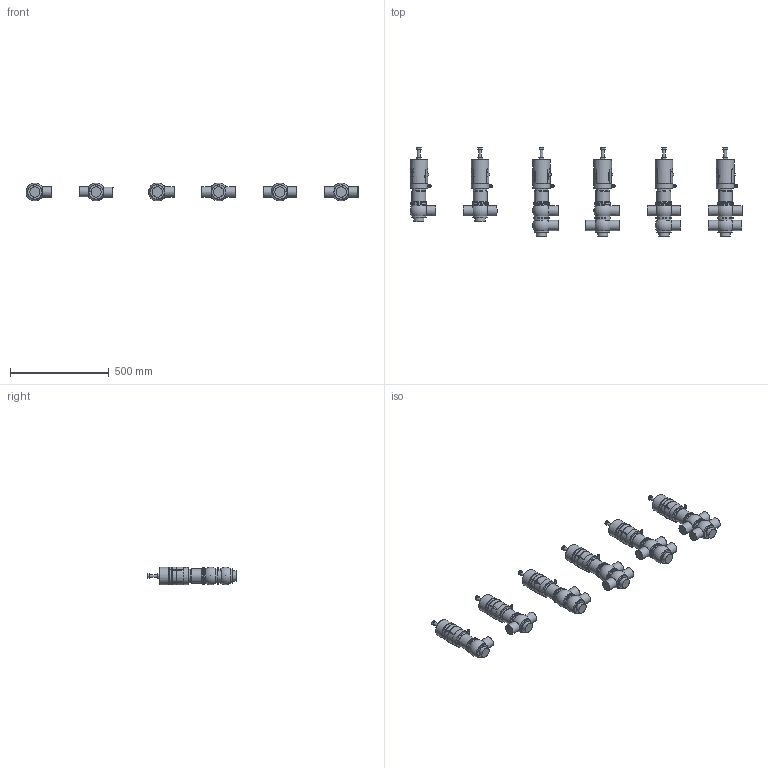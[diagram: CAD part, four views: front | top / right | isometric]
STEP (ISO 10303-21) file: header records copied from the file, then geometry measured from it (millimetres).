
FILE_DESCRIPTION((''),'2;1');
FILE_NAME('\\BV-SRV1\Ufficio tecnico\cad3d\PNEUMATICA\Ing1-1\pne bbzp e derivate\BBZS5\BBZS5-DN050-CIL83-SAL.iam.step','2009-10-19T10:17:51',(''),(''),'Autodesk Inventor 2010','Autodesk Inventor 2010','');
FILE_SCHEMA(('AUTOMOTIVE_DESIGN { 1 0 10303 214 1 1 1 1 }'));
Length unit declared in the file: millimetre
Products named in the file (7): BBZS5-DN050-CIL83-SAL; Assemblaggio-DN050; COR-INF-L-SAL-DN50; COR-INF-T-SAL-DN50; COR-SUP-L-SAL-DN50; COR-SUP-T-SAL-DN50; cil 83  tarabile
Assembly tree (22 placements, depth 2):
  BBZS5-DN050-CIL83-SAL
    Assemblaggio-DN050  x6
    COR-INF-L-SAL-DN50  x3
    COR-INF-T-SAL-DN50  x3
    COR-SUP-L-SAL-DN50  x2
    COR-SUP-T-SAL-DN50  x2
    cil 83  tarabile  x6
Bounding box: 1679.75 x 447.8 x 89.44 mm (x, y, z)
Volume: 12915287 mm3; surface area: 1001400 mm2
Topology: 22 solids, 52 shells, 1325 faces, 3164 edges, 1914 vertices
Faces by surface type: plane 491, cylinder 349, cone 266, bspline 90, sphere 87, torus 42
Full cylindrical faces by diameter (mm): 4.9 x6, 6 x12, 7 x6, 8.3 x6, 10 x6, 11 x6, 11.5 x6, 14 x18, 19.37 x6, 52 x21, 69 x6, 71 x6, 73 x26, 81 x20, 84.813 x18, 86 x12, 86.1 x6, 88.5 x6, 89.5 x6
Entity records: 7598 total; most frequent: CARTESIAN_POINT 2036, DIRECTION 1102, ORIENTED_EDGE 948, EDGE_CURVE 474, AXIS2_PLACEMENT_3D 473, EDGE_LOOP 347, VERTEX_POINT 325, FACE_OUTER_BOUND 251
